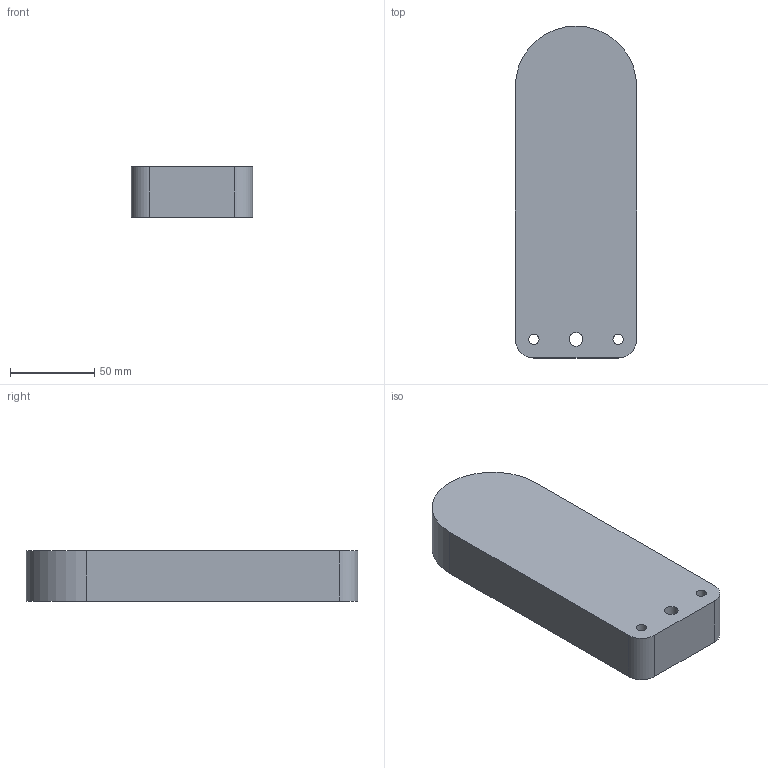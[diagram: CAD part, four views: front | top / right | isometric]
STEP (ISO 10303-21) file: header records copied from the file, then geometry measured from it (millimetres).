
FILE_DESCRIPTION(/* description */ (''),/* implementation_level */ '2;1');
FILE_NAME(/* name */ 'czlon3.step',/* time_stamp */ '2026-03-04T15:15:25+01:00',/* author */ (''),/* organization */ (''),/* preprocessor_version */ 'ST-DEVELOPER v20.1',/* originating_system */ 'Autodesk Translation Framework v14.24.0.0',/* authorisation */ '');
FILE_SCHEMA (('AUTOMOTIVE_DESIGN { 1 0 10303 214 3 1 1 }'));
Length unit declared in the file: millimetre
Products named in the file (1): czlon3
Bounding box: 72.1 x 197.1 x 30 mm (x, y, z)
Volume: 379589.1 mm3; surface area: 46347 mm2
Topology: 1 solids, 1 shells, 13 faces, 32 edges, 22 vertices
Faces by surface type: cylinder 7, plane 6
Full cylindrical faces by diameter (mm): 6.1 x2, 8.1 x1, 40 x1
Entity records: 441 total; most frequent: DIRECTION 74, CARTESIAN_POINT 68, ORIENTED_EDGE 64, EDGE_CURVE 32, AXIS2_PLACEMENT_3D 28, VERTEX_POINT 22, EDGE_LOOP 20, LINE 18
